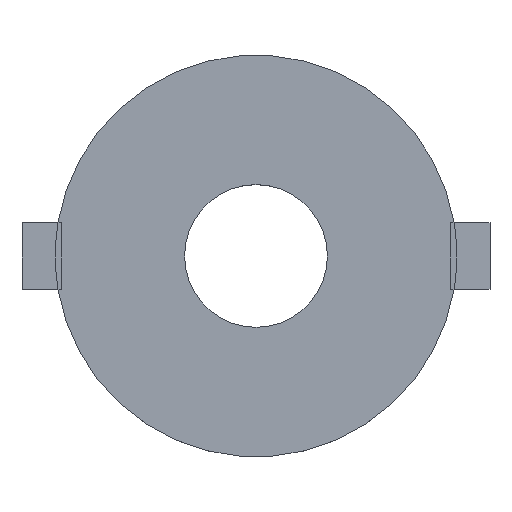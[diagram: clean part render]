
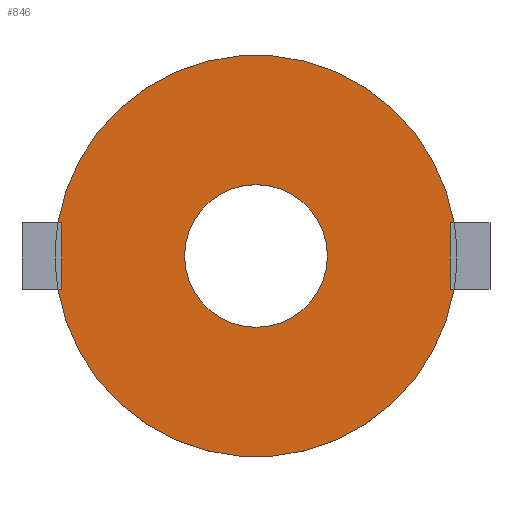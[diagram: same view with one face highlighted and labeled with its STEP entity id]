
A CAD part, top view. The second image highlights one B-rep face of the part: STEP entity #846.
In plain terms, the highlighted planar face has unit normal (0, 0, 1).
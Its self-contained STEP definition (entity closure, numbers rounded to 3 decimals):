
#201 = CYLINDRICAL_SURFACE('',#202,12.1);
#202 = AXIS2_PLACEMENT_3D('',#203,#204,#205);
#203 = CARTESIAN_POINT('',(0.,0.,-0.8));
#204 = DIRECTION('',(0.,0.,1.));
#205 = DIRECTION('',(1.,0.,-0.));
#233 = CYLINDRICAL_SURFACE('',#234,12.1);
#234 = AXIS2_PLACEMENT_3D('',#235,#236,#237);
#235 = CARTESIAN_POINT('',(0.,0.,-0.8));
#236 = DIRECTION('',(0.,0.,1.));
#237 = DIRECTION('',(1.,0.,-0.));
#308 = CYLINDRICAL_SURFACE('',#309,4.3);
#309 = AXIS2_PLACEMENT_3D('',#310,#311,#312);
#310 = CARTESIAN_POINT('',(0.,0.,-0.81));
#311 = DIRECTION('',(0.,0.,1.));
#312 = DIRECTION('',(1.,0.,-0.));
#443 = EDGE_CURVE('',#444,#446,#448,.T.);
#444 = VERTEX_POINT('',#445);
#445 = CARTESIAN_POINT('',(11.934,2.,0.));
#446 = VERTEX_POINT('',#447);
#447 = CARTESIAN_POINT('',(-11.934,2.,0.));
#448 = SURFACE_CURVE('',#449,(#454,#461),.PCURVE_S1.);
#449 = CIRCLE('',#450,12.1);
#450 = AXIS2_PLACEMENT_3D('',#451,#452,#453);
#451 = CARTESIAN_POINT('',(0.,0.,0.));
#452 = DIRECTION('',(0.,0.,1.));
#453 = DIRECTION('',(1.,0.,-0.));
#454 = PCURVE('',#233,#455);
#455 = DEFINITIONAL_REPRESENTATION('',(#456),#460);
#456 = LINE('',#457,#458);
#457 = CARTESIAN_POINT('',(0.,0.8));
#458 = VECTOR('',#459,1.);
#459 = DIRECTION('',(1.,0.));
#460 = ( GEOMETRIC_REPRESENTATION_CONTEXT(2) 
PARAMETRIC_REPRESENTATION_CONTEXT() REPRESENTATION_CONTEXT('2D SPACE',''
  ) );
#461 = PCURVE('',#462,#467);
#462 = PLANE('',#463);
#463 = AXIS2_PLACEMENT_3D('',#464,#465,#466);
#464 = CARTESIAN_POINT('',(0.,0.,0.));
#465 = DIRECTION('',(0.,0.,1.));
#466 = DIRECTION('',(1.,0.,-0.));
#467 = DEFINITIONAL_REPRESENTATION('',(#468),#472);
#468 = CIRCLE('',#469,12.1);
#469 = AXIS2_PLACEMENT_2D('',#470,#471);
#470 = CARTESIAN_POINT('',(0.,0.));
#471 = DIRECTION('',(1.,0.));
#472 = ( GEOMETRIC_REPRESENTATION_CONTEXT(2) 
PARAMETRIC_REPRESENTATION_CONTEXT() REPRESENTATION_CONTEXT('2D SPACE',''
  ) );
#522 = VERTEX_POINT('',#523);
#523 = CARTESIAN_POINT('',(11.934,-2.,0.));
#542 = EDGE_CURVE('',#543,#522,#545,.T.);
#543 = VERTEX_POINT('',#544);
#544 = CARTESIAN_POINT('',(-11.934,-2.,0.));
#545 = SURFACE_CURVE('',#546,(#551,#558),.PCURVE_S1.);
#546 = CIRCLE('',#547,12.1);
#547 = AXIS2_PLACEMENT_3D('',#548,#549,#550);
#548 = CARTESIAN_POINT('',(0.,0.,0.));
#549 = DIRECTION('',(0.,0.,1.));
#550 = DIRECTION('',(1.,0.,-0.));
#551 = PCURVE('',#201,#552);
#552 = DEFINITIONAL_REPRESENTATION('',(#553),#557);
#553 = LINE('',#554,#555);
#554 = CARTESIAN_POINT('',(0.,0.8));
#555 = VECTOR('',#556,1.);
#556 = DIRECTION('',(1.,0.));
#557 = ( GEOMETRIC_REPRESENTATION_CONTEXT(2) 
PARAMETRIC_REPRESENTATION_CONTEXT() REPRESENTATION_CONTEXT('2D SPACE',''
  ) );
#558 = PCURVE('',#462,#559);
#559 = DEFINITIONAL_REPRESENTATION('',(#560),#564);
#560 = CIRCLE('',#561,12.1);
#561 = AXIS2_PLACEMENT_2D('',#562,#563);
#562 = CARTESIAN_POINT('',(0.,0.));
#563 = DIRECTION('',(1.,0.));
#564 = ( GEOMETRIC_REPRESENTATION_CONTEXT(2) 
PARAMETRIC_REPRESENTATION_CONTEXT() REPRESENTATION_CONTEXT('2D SPACE',''
  ) );
#594 = EDGE_CURVE('',#595,#595,#597,.T.);
#595 = VERTEX_POINT('',#596);
#596 = CARTESIAN_POINT('',(4.3,0.,0.));
#597 = SURFACE_CURVE('',#598,(#603,#610),.PCURVE_S1.);
#598 = CIRCLE('',#599,4.3);
#599 = AXIS2_PLACEMENT_3D('',#600,#601,#602);
#600 = CARTESIAN_POINT('',(0.,0.,0.));
#601 = DIRECTION('',(0.,0.,1.));
#602 = DIRECTION('',(1.,0.,-0.));
#603 = PCURVE('',#308,#604);
#604 = DEFINITIONAL_REPRESENTATION('',(#605),#609);
#605 = LINE('',#606,#607);
#606 = CARTESIAN_POINT('',(0.,0.81));
#607 = VECTOR('',#608,1.);
#608 = DIRECTION('',(1.,0.));
#609 = ( GEOMETRIC_REPRESENTATION_CONTEXT(2) 
PARAMETRIC_REPRESENTATION_CONTEXT() REPRESENTATION_CONTEXT('2D SPACE',''
  ) );
#610 = PCURVE('',#462,#611);
#611 = DEFINITIONAL_REPRESENTATION('',(#612),#616);
#612 = CIRCLE('',#613,4.3);
#613 = AXIS2_PLACEMENT_2D('',#614,#615);
#614 = CARTESIAN_POINT('',(0.,0.));
#615 = DIRECTION('',(1.,0.));
#616 = ( GEOMETRIC_REPRESENTATION_CONTEXT(2) 
PARAMETRIC_REPRESENTATION_CONTEXT() REPRESENTATION_CONTEXT('2D SPACE',''
  ) );
#846 = ADVANCED_FACE('',(#847,#995),#462,.T.);
#847 = FACE_BOUND('',#848,.T.);
#848 = EDGE_LOOP('',(#849,#877,#878,#906,#929,#950,#951,#974));
#849 = ORIENTED_EDGE('',*,*,#850,.F.);
#850 = EDGE_CURVE('',#543,#851,#853,.T.);
#851 = VERTEX_POINT('',#852);
#852 = CARTESIAN_POINT('',(-11.7,-2.,0.));
#853 = SURFACE_CURVE('',#854,(#858,#865),.PCURVE_S1.);
#854 = LINE('',#855,#856);
#855 = CARTESIAN_POINT('',(-14.1,-2.,0.));
#856 = VECTOR('',#857,1.);
#857 = DIRECTION('',(1.,0.,0.));
#858 = PCURVE('',#462,#859);
#859 = DEFINITIONAL_REPRESENTATION('',(#860),#864);
#860 = LINE('',#861,#862);
#861 = CARTESIAN_POINT('',(-14.1,-2.));
#862 = VECTOR('',#863,1.);
#863 = DIRECTION('',(1.,0.));
#864 = ( GEOMETRIC_REPRESENTATION_CONTEXT(2) 
PARAMETRIC_REPRESENTATION_CONTEXT() REPRESENTATION_CONTEXT('2D SPACE',''
  ) );
#865 = PCURVE('',#866,#871);
#866 = PLANE('',#867);
#867 = AXIS2_PLACEMENT_3D('',#868,#869,#870);
#868 = CARTESIAN_POINT('',(0.,0.,0.));
#869 = DIRECTION('',(0.,0.,1.));
#870 = DIRECTION('',(1.,0.,-0.));
#871 = DEFINITIONAL_REPRESENTATION('',(#872),#876);
#872 = LINE('',#873,#874);
#873 = CARTESIAN_POINT('',(-14.1,-2.));
#874 = VECTOR('',#875,1.);
#875 = DIRECTION('',(1.,0.));
#876 = ( GEOMETRIC_REPRESENTATION_CONTEXT(2) 
PARAMETRIC_REPRESENTATION_CONTEXT() REPRESENTATION_CONTEXT('2D SPACE',''
  ) );
#877 = ORIENTED_EDGE('',*,*,#542,.T.);
#878 = ORIENTED_EDGE('',*,*,#879,.F.);
#879 = EDGE_CURVE('',#880,#522,#882,.T.);
#880 = VERTEX_POINT('',#881);
#881 = CARTESIAN_POINT('',(11.7,-2.,0.));
#882 = SURFACE_CURVE('',#883,(#887,#894),.PCURVE_S1.);
#883 = LINE('',#884,#885);
#884 = CARTESIAN_POINT('',(11.7,-2.,0.));
#885 = VECTOR('',#886,1.);
#886 = DIRECTION('',(1.,0.,0.));
#887 = PCURVE('',#462,#888);
#888 = DEFINITIONAL_REPRESENTATION('',(#889),#893);
#889 = LINE('',#890,#891);
#890 = CARTESIAN_POINT('',(11.7,-2.));
#891 = VECTOR('',#892,1.);
#892 = DIRECTION('',(1.,0.));
#893 = ( GEOMETRIC_REPRESENTATION_CONTEXT(2) 
PARAMETRIC_REPRESENTATION_CONTEXT() REPRESENTATION_CONTEXT('2D SPACE',''
  ) );
#894 = PCURVE('',#895,#900);
#895 = PLANE('',#896);
#896 = AXIS2_PLACEMENT_3D('',#897,#898,#899);
#897 = CARTESIAN_POINT('',(0.,0.,0.));
#898 = DIRECTION('',(0.,0.,1.));
#899 = DIRECTION('',(1.,0.,-0.));
#900 = DEFINITIONAL_REPRESENTATION('',(#901),#905);
#901 = LINE('',#902,#903);
#902 = CARTESIAN_POINT('',(11.7,-2.));
#903 = VECTOR('',#904,1.);
#904 = DIRECTION('',(1.,0.));
#905 = ( GEOMETRIC_REPRESENTATION_CONTEXT(2) 
PARAMETRIC_REPRESENTATION_CONTEXT() REPRESENTATION_CONTEXT('2D SPACE',''
  ) );
#906 = ORIENTED_EDGE('',*,*,#907,.T.);
#907 = EDGE_CURVE('',#880,#908,#910,.T.);
#908 = VERTEX_POINT('',#909);
#909 = CARTESIAN_POINT('',(11.7,2.,0.));
#910 = SURFACE_CURVE('',#911,(#915,#922),.PCURVE_S1.);
#911 = LINE('',#912,#913);
#912 = CARTESIAN_POINT('',(11.7,-2.,0.));
#913 = VECTOR('',#914,1.);
#914 = DIRECTION('',(0.,1.,0.));
#915 = PCURVE('',#462,#916);
#916 = DEFINITIONAL_REPRESENTATION('',(#917),#921);
#917 = LINE('',#918,#919);
#918 = CARTESIAN_POINT('',(11.7,-2.));
#919 = VECTOR('',#920,1.);
#920 = DIRECTION('',(0.,1.));
#921 = ( GEOMETRIC_REPRESENTATION_CONTEXT(2) 
PARAMETRIC_REPRESENTATION_CONTEXT() REPRESENTATION_CONTEXT('2D SPACE',''
  ) );
#922 = PCURVE('',#895,#923);
#923 = DEFINITIONAL_REPRESENTATION('',(#924),#928);
#924 = LINE('',#925,#926);
#925 = CARTESIAN_POINT('',(11.7,-2.));
#926 = VECTOR('',#927,1.);
#927 = DIRECTION('',(0.,1.));
#928 = ( GEOMETRIC_REPRESENTATION_CONTEXT(2) 
PARAMETRIC_REPRESENTATION_CONTEXT() REPRESENTATION_CONTEXT('2D SPACE',''
  ) );
#929 = ORIENTED_EDGE('',*,*,#930,.T.);
#930 = EDGE_CURVE('',#908,#444,#931,.T.);
#931 = SURFACE_CURVE('',#932,(#936,#943),.PCURVE_S1.);
#932 = LINE('',#933,#934);
#933 = CARTESIAN_POINT('',(11.7,2.,0.));
#934 = VECTOR('',#935,1.);
#935 = DIRECTION('',(1.,0.,0.));
#936 = PCURVE('',#462,#937);
#937 = DEFINITIONAL_REPRESENTATION('',(#938),#942);
#938 = LINE('',#939,#940);
#939 = CARTESIAN_POINT('',(11.7,2.));
#940 = VECTOR('',#941,1.);
#941 = DIRECTION('',(1.,0.));
#942 = ( GEOMETRIC_REPRESENTATION_CONTEXT(2) 
PARAMETRIC_REPRESENTATION_CONTEXT() REPRESENTATION_CONTEXT('2D SPACE',''
  ) );
#943 = PCURVE('',#895,#944);
#944 = DEFINITIONAL_REPRESENTATION('',(#945),#949);
#945 = LINE('',#946,#947);
#946 = CARTESIAN_POINT('',(11.7,2.));
#947 = VECTOR('',#948,1.);
#948 = DIRECTION('',(1.,0.));
#949 = ( GEOMETRIC_REPRESENTATION_CONTEXT(2) 
PARAMETRIC_REPRESENTATION_CONTEXT() REPRESENTATION_CONTEXT('2D SPACE',''
  ) );
#950 = ORIENTED_EDGE('',*,*,#443,.T.);
#951 = ORIENTED_EDGE('',*,*,#952,.T.);
#952 = EDGE_CURVE('',#446,#953,#955,.T.);
#953 = VERTEX_POINT('',#954);
#954 = CARTESIAN_POINT('',(-11.7,2.,0.));
#955 = SURFACE_CURVE('',#956,(#960,#967),.PCURVE_S1.);
#956 = LINE('',#957,#958);
#957 = CARTESIAN_POINT('',(-14.1,2.,0.));
#958 = VECTOR('',#959,1.);
#959 = DIRECTION('',(1.,0.,0.));
#960 = PCURVE('',#462,#961);
#961 = DEFINITIONAL_REPRESENTATION('',(#962),#966);
#962 = LINE('',#963,#964);
#963 = CARTESIAN_POINT('',(-14.1,2.));
#964 = VECTOR('',#965,1.);
#965 = DIRECTION('',(1.,0.));
#966 = ( GEOMETRIC_REPRESENTATION_CONTEXT(2) 
PARAMETRIC_REPRESENTATION_CONTEXT() REPRESENTATION_CONTEXT('2D SPACE',''
  ) );
#967 = PCURVE('',#866,#968);
#968 = DEFINITIONAL_REPRESENTATION('',(#969),#973);
#969 = LINE('',#970,#971);
#970 = CARTESIAN_POINT('',(-14.1,2.));
#971 = VECTOR('',#972,1.);
#972 = DIRECTION('',(1.,0.));
#973 = ( GEOMETRIC_REPRESENTATION_CONTEXT(2) 
PARAMETRIC_REPRESENTATION_CONTEXT() REPRESENTATION_CONTEXT('2D SPACE',''
  ) );
#974 = ORIENTED_EDGE('',*,*,#975,.F.);
#975 = EDGE_CURVE('',#851,#953,#976,.T.);
#976 = SURFACE_CURVE('',#977,(#981,#988),.PCURVE_S1.);
#977 = LINE('',#978,#979);
#978 = CARTESIAN_POINT('',(-11.7,-2.,0.));
#979 = VECTOR('',#980,1.);
#980 = DIRECTION('',(0.,1.,0.));
#981 = PCURVE('',#462,#982);
#982 = DEFINITIONAL_REPRESENTATION('',(#983),#987);
#983 = LINE('',#984,#985);
#984 = CARTESIAN_POINT('',(-11.7,-2.));
#985 = VECTOR('',#986,1.);
#986 = DIRECTION('',(0.,1.));
#987 = ( GEOMETRIC_REPRESENTATION_CONTEXT(2) 
PARAMETRIC_REPRESENTATION_CONTEXT() REPRESENTATION_CONTEXT('2D SPACE',''
  ) );
#988 = PCURVE('',#866,#989);
#989 = DEFINITIONAL_REPRESENTATION('',(#990),#994);
#990 = LINE('',#991,#992);
#991 = CARTESIAN_POINT('',(-11.7,-2.));
#992 = VECTOR('',#993,1.);
#993 = DIRECTION('',(0.,1.));
#994 = ( GEOMETRIC_REPRESENTATION_CONTEXT(2) 
PARAMETRIC_REPRESENTATION_CONTEXT() REPRESENTATION_CONTEXT('2D SPACE',''
  ) );
#995 = FACE_BOUND('',#996,.T.);
#996 = EDGE_LOOP('',(#997));
#997 = ORIENTED_EDGE('',*,*,#594,.F.);
